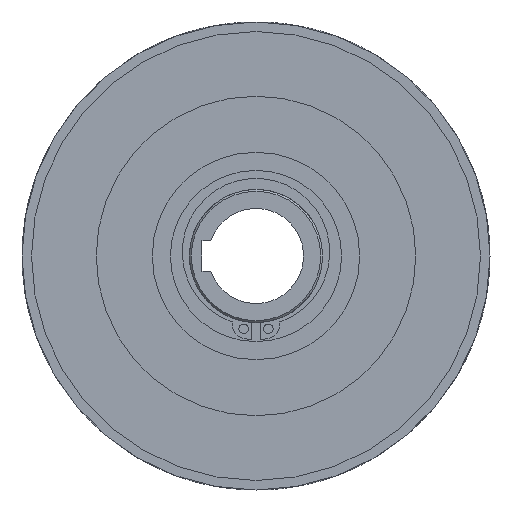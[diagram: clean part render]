
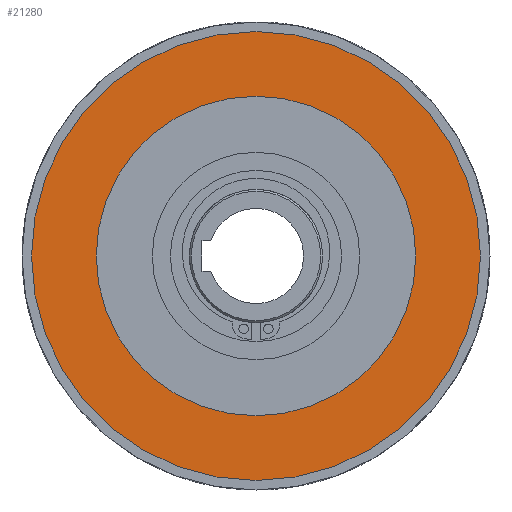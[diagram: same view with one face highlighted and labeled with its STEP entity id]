
A CAD part, left-side view. The second image highlights one B-rep face of the part: STEP entity #21280.
In plain terms, the highlighted planar face has unit normal (-1, 0, 0).
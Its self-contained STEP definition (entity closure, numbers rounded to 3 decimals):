
#820=FACE_BOUND('',#4073,.T.);
#2399=PLANE('',#22727);
#2867=FACE_OUTER_BOUND('',#4072,.T.);
#4072=EDGE_LOOP('',(#14674));
#4073=EDGE_LOOP('',(#14675));
#5537=CIRCLE('',#22726,42.);
#5538=CIRCLE('',#22728,59.);
#8159=VERTEX_POINT('',#62991);
#8160=VERTEX_POINT('',#62995);
#10619=EDGE_CURVE('',#8159,#8159,#5537,.T.);
#10620=EDGE_CURVE('',#8160,#8160,#5538,.T.);
#14674=ORIENTED_EDGE('',*,*,#10620,.F.);
#14675=ORIENTED_EDGE('',*,*,#10619,.T.);
#21280=ADVANCED_FACE('',(#2867,#820),#2399,.T.);
#22726=AXIS2_PLACEMENT_3D('',#62993,#26004,#26005);
#22727=AXIS2_PLACEMENT_3D('',#62994,#26006,#26007);
#22728=AXIS2_PLACEMENT_3D('',#62996,#26008,#26009);
#26004=DIRECTION('center_axis',(1.,0.,0.));
#26005=DIRECTION('ref_axis',(0.,1.,0.));
#26006=DIRECTION('center_axis',(-1.,0.,0.));
#26007=DIRECTION('ref_axis',(0.,0.,1.));
#26008=DIRECTION('center_axis',(1.,0.,0.));
#26009=DIRECTION('ref_axis',(0.,1.,0.));
#62991=CARTESIAN_POINT('',(-38.5,-42.,0.));
#62993=CARTESIAN_POINT('Origin',(-38.5,0.,0.));
#62994=CARTESIAN_POINT('Origin',(-38.5,50.5,0.));
#62995=CARTESIAN_POINT('',(-38.5,-59.,0.));
#62996=CARTESIAN_POINT('Origin',(-38.5,0.,0.));
